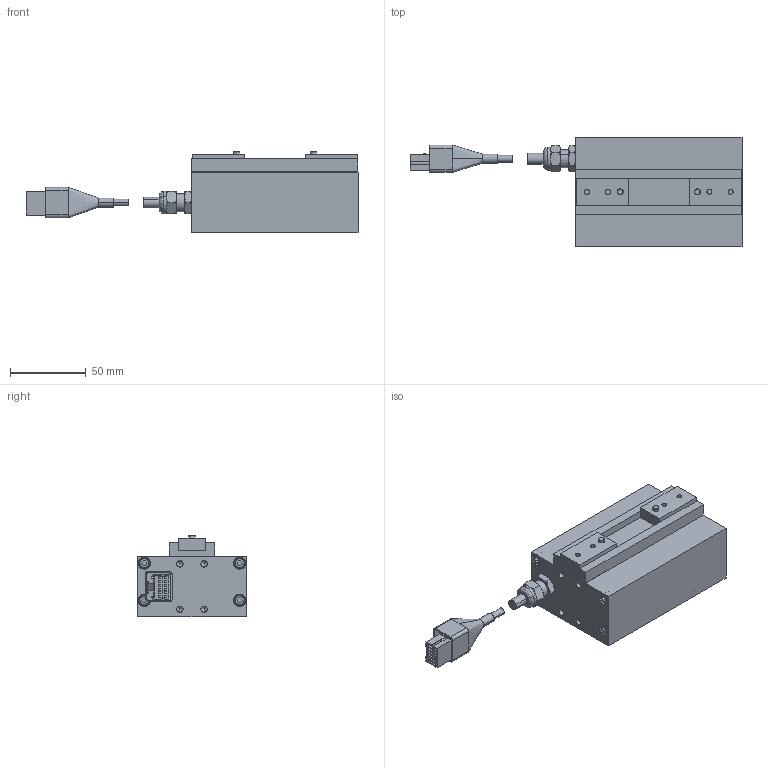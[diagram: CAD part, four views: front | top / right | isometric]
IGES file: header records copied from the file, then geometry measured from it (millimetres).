
Start section: SolidWorks IGES file using analytic representation for surfaces
Global section: file name: G:\SW2007図面\TAIYO\電動機器３Ｄ\電動グリッパ　２爪\ESG1-FT-2840.IGS; native system: SolidWorks 2007; preprocessor: SolidWorks 2007; author: 風音庵,,1; organization: 1; date: 090212.171621; units: millimetre
Bounding box: 219.39 x 72 x 54 mm (x, y, z)
Surface area: 50934.1 mm2 (no closed solid volume)
Topology: 0 solids, 0 shells, 441 faces, 4835 edges, 4811 vertices
Faces by surface type: bspline 265, revolution 176
